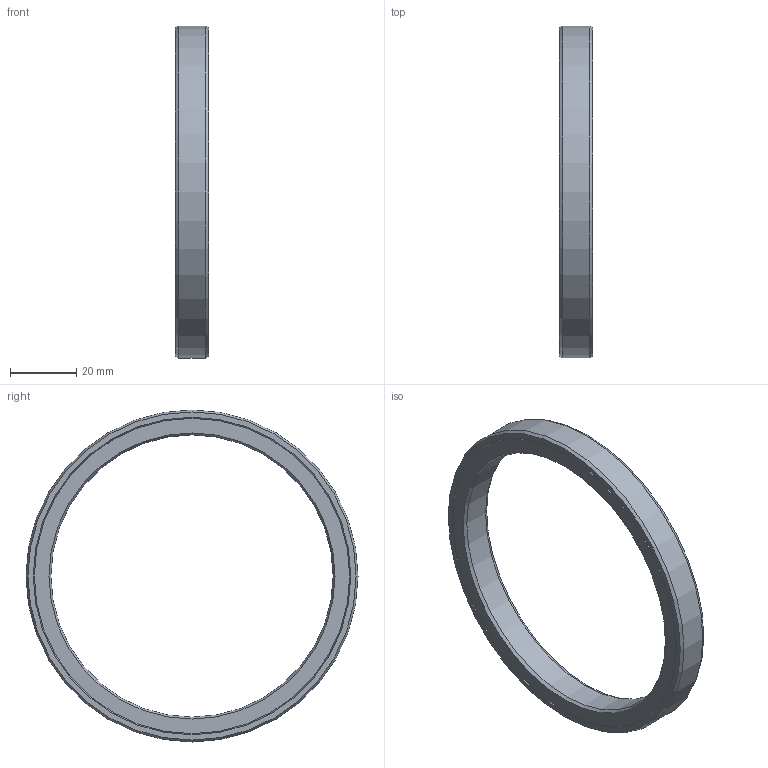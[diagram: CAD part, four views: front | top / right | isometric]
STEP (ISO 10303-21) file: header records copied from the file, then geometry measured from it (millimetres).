
FILE_DESCRIPTION(/* description */ (''),/* implementation_level */ '2;1');
FILE_NAME(/* name */ '301270 L 85x100x10.stp',/* time_stamp */ '2016-12-15T10:02:34+01:00',/* author */ (''),/* organization */ (''),/* preprocessor_version */ 'ST-DEVELOPER v15',/* originating_system */ 'SIEMENS PLM Software NX 8.5',/* authorisation */ '');
FILE_SCHEMA (('CONFIG_CONTROL_DESIGN'));
Length unit declared in the file: millimetre
Products named in the file (1): ATE0000122_01
Bounding box: 10 x 100 x 100 mm (x, y, z)
Volume: 20414.9 mm3; surface area: 16450.6 mm2
Topology: 2 solids, 2 shells, 18 faces, 34 edges, 20 vertices
Faces by surface type: cone 12, plane 4, cylinder 2
Full cylindrical faces by diameter (mm): 85 x1, 100 x1
Entity records: 454 total; most frequent: DIRECTION 74, CARTESIAN_POINT 55, AXIS2_PLACEMENT_3D 37, FACE_BOUND 36, EDGE_LOOP 36, ORIENTED_EDGE 36, ADVANCED_FACE 18, VERTEX_POINT 18
